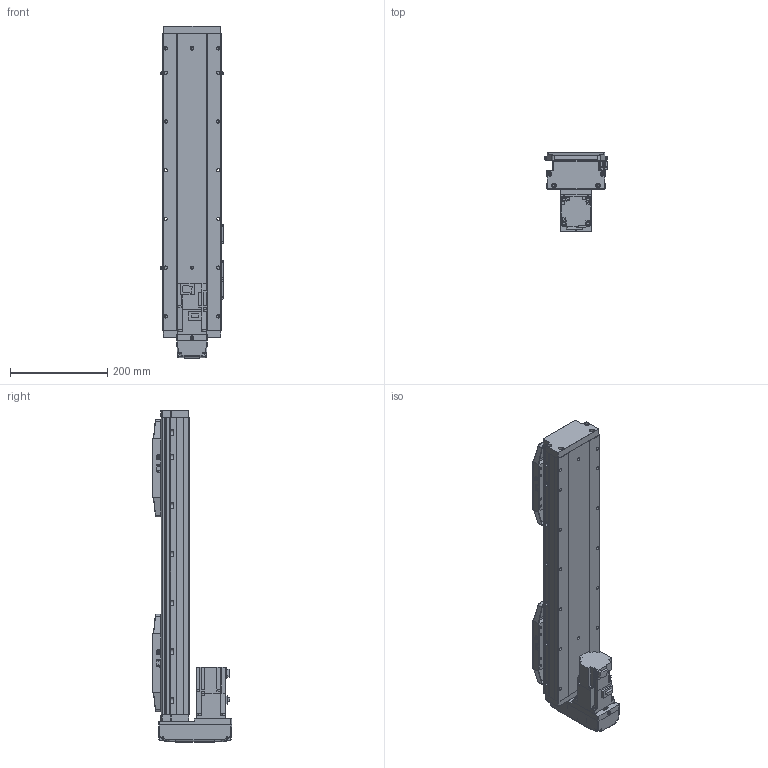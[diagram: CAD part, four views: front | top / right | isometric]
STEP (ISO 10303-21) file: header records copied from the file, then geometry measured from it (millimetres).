
FILE_DESCRIPTION (( 'STEP AP203' ), '1' );
FILE_NAME ('75.STEP', '2022-08-03T09:10:07', ( '' ), ( '' ), 'SwSTEP 2.0', 'SolidWorks 2016', '' );
FILE_SCHEMA (( 'CONFIG_CONTROL_DESIGN' ));
Length unit declared in the file: millimetre
Products named in the file (10): PM-Y45; CTH12S-BL-HZ; 75; CTH12S-BL-04; CTH12S-BL-01; CTH12S-BL-菁釱; CTH12S-BM-02; CTH12S-BL-T40; CTH12S-BL-05; CTH12S-BL-07
Assembly tree (15 placements, depth 2):
  75
    CTH12S-BL-菁釱
    CTH12S-BL-01
    CTH12S-BL-04
    CTH12S-BL-05  x2
    CTH12S-BL-07  x3
    CTH12S-BL-HZ  x2
    CTH12S-BL-T40
    PM-Y45  x3
    CTH12S-BM-02
Bounding box: 129 x 162.5 x 681.5 mm (x, y, z)
Volume: 4775721 mm3; surface area: 612049.1 mm2
Topology: 36 solids, 36 shells, 2459 faces, 6382 edges, 4045 vertices
Faces by surface type: plane 1246, cylinder 700, cone 298, bspline 215
Entity records: 62365 total; most frequent: CARTESIAN_POINT 19106, ORIENTED_EDGE 8994, DIRECTION 8248, EDGE_CURVE 4497, VERTEX_POINT 2903, VECTOR 2886, LINE 2886, AXIS2_PLACEMENT_3D 2681
